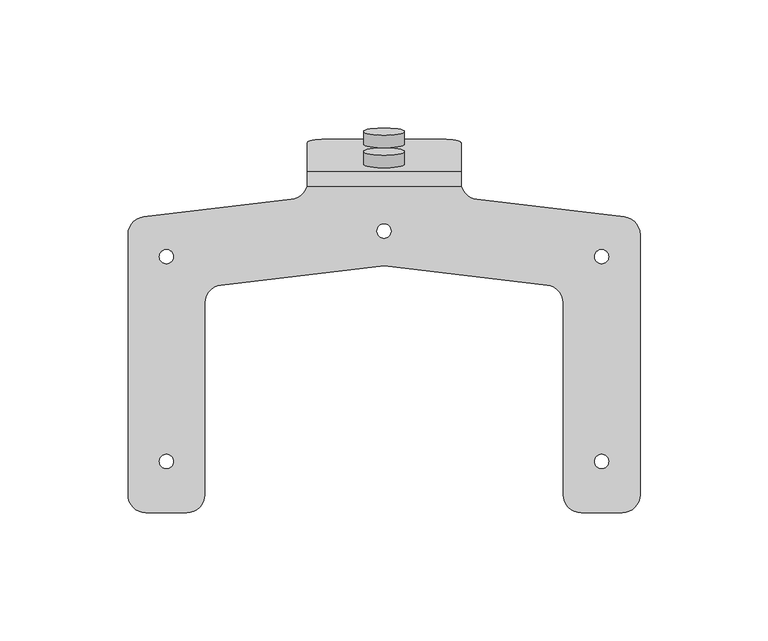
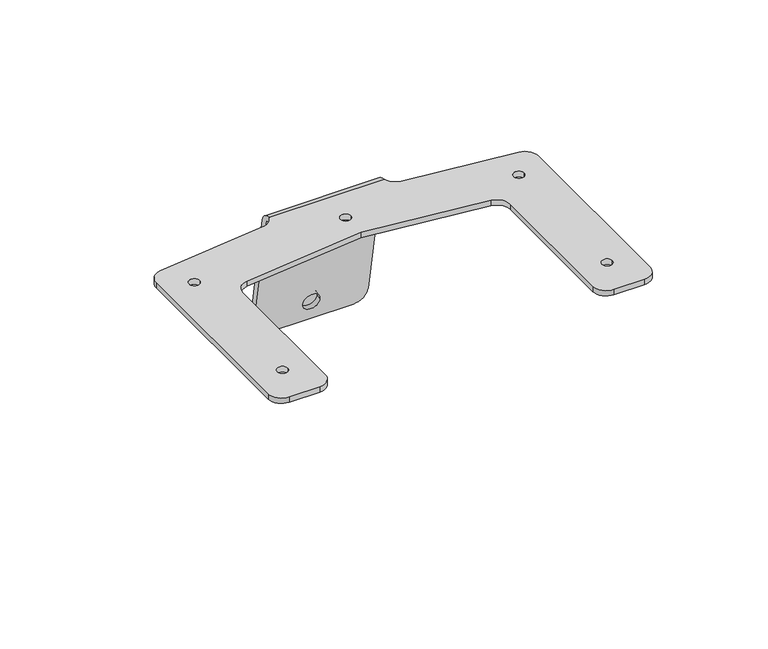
"""IFC4 building model written with IfcOpenShell, lengths in millimetres: proxy geometry, d&b xS-Series 44S L-Mount Adapter : 44S L-Mount Adapter."""

from ifc_helpers import new_model, si_unit, point, frame, frame_2d, origin, origin_with_axes, place, context, project, spatial, polyline, circle_curve, trimmed, segment, composite_curve, outline, extrude, source, transform, mapped, element, save
from ifc_brep_helpers import plane_surface, cylinder_surface, revolved_surface, advanced_brep


def communication_devices_e3182ff1(model_context):
    return source(origin(), model_context, "Body", "SolidModel", [
        extrude(outline(composite_curve([segment(trimmed(circle_curve(frame_2d((0.0, -8.0)), 8.0), [point((0.0, -16.0))], [point((0.0, 0.0))], False, "CARTESIAN"), True, "CONTINUOUS"), segment(trimmed(circle_curve(frame_2d((0.0, -8.0)), 8.0), [point((0.0, 0.0))], [point((0.0, -16.0))], False, "CARTESIAN"), True, "CONTINUOUS")], self_intersect=False)), frame((-8.0, 26.129195, -17.484081), z_axis=(0.0, 0.9848077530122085, 0.1736481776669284), x_axis=(0.0, 0.1736481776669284, -0.9848077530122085)), (0.0, 0.0, 1.0), 5.0),
        extrude(outline(composite_curve([segment(trimmed(circle_curve(frame_2d((45.0, -8.0)), 8.0), [point((45.0, -16.0))], [point((45.0, 0.0))], False, "CARTESIAN"), True, "CONTINUOUS"), segment(trimmed(circle_curve(frame_2d((45.0, -8.0)), 8.0), [point((45.0, 0.0))], [point((45.0, -16.0))], False, "CARTESIAN"), True, "CONTINUOUS")], self_intersect=False)), frame((-8.0, 26.129195, -17.484081), z_axis=(0.0, 0.9848077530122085, 0.1736481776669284), x_axis=(0.0, 0.1736481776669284, -0.9848077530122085)), (0.0, 0.0, 1.0), 5.0),
        advanced_brep(
        [(30.2424739, 20.0, 0.0), (30.2424739, 31.6344279, -65.9821195), (30.2424739, 34.5888512, -65.4611749), (30.2424739, 23.3915476, -1.9581109), (30.2424739, 17.4827011, 3.0), (30.2424739, 17.4827011, 0.0), (-30.0, 20.0, 0.0), (-30.0, 17.4827011, 0.0), (-30.0, 17.4827011, 3.0), (-30.0, 23.3915476, -1.9581109), (-30.0, 34.5888512, -65.4611749), (-30.0, 31.6344279, -65.9821195), (-23.0, 32.8499651, -72.8757737), (23.0, 32.8499651, -72.8757737), (30.0, 31.6344279, -65.9821195), (4.5, 23.1747718, -18.0050255), (-4.5, 23.1747718, -18.0050255), (4.5, 30.9889398, -62.3213744), (-4.5, 30.9889398, -62.3213744), (30.0, 34.5888512, -65.4611749), (23.0, 35.8043884, -72.3548292), (-23.0, 35.8043884, -72.3548292), (-4.5, 26.129195, -17.484081), (4.5, 26.129195, -17.484081), (-4.5, 33.943363, -61.8004299), (4.5, 33.943363, -61.8004299), (-70.0, -103.0, 3.0), (-70.0, -28.0531457, 3.0), (-63.8178887, -21.1010915, 3.0), (0.0, -13.5931046, 3.0), (63.8178887, -21.1010915, 3.0), (70.0, -28.0531457, 3.0), (70.0, -103.0, 3.0), (77.0, -110.0, 3.0), (93.0, -110.0, 3.0), (100.0, -103.0, 3.0), (100.0, -1.3756585, 3.0), (93.8178887, 5.5763958, 3.0), (36.1821113, 12.3570755, 3.0), (-36.1821113, 12.3570755, 3.0), (-93.8178887, 5.5763958, 3.0), (-100.0, -1.3756585, 3.0), (-100.0, -103.0, 3.0), (-93.0, -110.0, 3.0), (-77.0, -110.0, 3.0), (-2.75, 0.0, 3.0), (2.75, 0.0, 3.0), (-87.75, -90.0, 3.0), (-82.25, -90.0, 3.0), (-87.75, -10.0, 3.0), (-82.25, -10.0, 3.0), (87.75, -90.0, 3.0), (82.25, -90.0, 3.0), (87.75, -10.0, 3.0), (82.25, -10.0, 3.0), (-70.0, -103.0, 0.0), (-70.0, -28.0531457, 0.0), (-63.8178887, -21.1010915, 0.0), (0.0, -13.5931046, 0.0), (63.8178887, -21.1010915, 0.0), (70.0, -28.0531457, 0.0), (70.0, -103.0, 0.0), (77.0, -110.0, 0.0), (93.0, -110.0, 0.0), (100.0, -103.0, 0.0), (100.0, -1.3756585, 0.0), (93.8178887, 5.5763958, 0.0), (36.1821113, 12.3570755, 0.0), (-36.1821113, 12.3570755, 0.0), (-93.8178887, 5.5763958, 0.0), (-100.0, -1.3756585, 0.0), (-100.0, -103.0, 0.0), (-93.0, -110.0, 0.0), (-77.0, -110.0, 0.0), (-2.75, 0.0, 0.0), (2.75, 0.0, 0.0), (-87.75, -90.0, 0.0), (-82.25, -90.0, 0.0), (-87.75, -10.0, 0.0), (-82.25, -10.0, 0.0), (87.75, -90.0, 0.0), (82.25, -90.0, 0.0), (87.75, -10.0, 0.0), (82.25, -10.0, 0.0)],
        [
            (0, 1),
            (1, 2),
            (2, 3),
            (3, 4, circle_curve(frame((30.2424739, 17.4827011, -3.0), z_axis=(1.0, 0.0, 0.0), x_axis=(0.0, -1.0, 0.0)), 6.0)),
            (4, 5),
            (5, 0),
            (6, 7),
            (7, 8),
            (8, 9, circle_curve(frame((-30.0, 17.4827011, -3.0), z_axis=(-1.0, 0.0, 0.0), x_axis=(0.0, -1.0, 0.0)), 6.0)),
            (9, 10),
            (10, 11),
            (11, 6),
            (0, 6),
            (11, 12, circle_curve(frame((-23.0, 31.6344279, -65.9821195), z_axis=(0.0, -0.9848077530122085, -0.1736481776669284), x_axis=(0.0, 0.1736481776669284, -0.9848077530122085)), 7.0)),
            (12, 13),
            (13, 14, circle_curve(frame((23.0, 31.6344279, -65.9821195), z_axis=(0.0, -0.9848077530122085, -0.1736481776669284), x_axis=(0.0, 0.1736481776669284, -0.9848077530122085)), 7.0)),
            (14, 1),
            (15, 16, circle_curve(frame((0.0, 23.1747718, -18.0050255), z_axis=(0.0, 0.9848077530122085, 0.17364817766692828), x_axis=(-1.0, 0.0, 0.0)), 4.5)),
            (16, 15, circle_curve(frame((0.0, 23.1747718, -18.0050255), z_axis=(0.0, 0.9848077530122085, 0.17364817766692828), x_axis=(-1.0, 0.0, 0.0)), 4.5)),
            (17, 18, circle_curve(frame((0.0, 30.9889398, -62.3213744), z_axis=(0.0, 0.9848077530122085, 0.17364817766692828), x_axis=(-1.0, 0.0, 0.0)), 4.5)),
            (18, 17, circle_curve(frame((0.0, 30.9889398, -62.3213744), z_axis=(0.0, 0.9848077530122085, 0.17364817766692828), x_axis=(-1.0, 0.0, 0.0)), 4.5)),
            (14, 19),
            (19, 2),
            (19, 20, circle_curve(frame((23.0, 34.5888512, -65.4611749), z_axis=(0.0, 0.9848077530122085, 0.1736481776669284), x_axis=(0.0, 0.1736481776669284, -0.9848077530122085)), 7.0)),
            (20, 21),
            (21, 10, circle_curve(frame((-23.0, 34.5888512, -65.4611749), z_axis=(0.0, 0.9848077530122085, 0.1736481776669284), x_axis=(0.0, 0.1736481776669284, -0.9848077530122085)), 7.0)),
            (9, 3),
            (22, 23, circle_curve(frame((0.0, 26.129195, -17.484081), z_axis=(0.0, -0.9848077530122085, -0.17364817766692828), x_axis=(-1.0, 0.0, 0.0)), 4.5)),
            (23, 22, circle_curve(frame((0.0, 26.129195, -17.484081), z_axis=(0.0, -0.9848077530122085, -0.17364817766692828), x_axis=(-1.0, 0.0, 0.0)), 4.5)),
            (24, 25, circle_curve(frame((0.0, 33.943363, -61.8004299), z_axis=(0.0, -0.9848077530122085, -0.17364817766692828), x_axis=(-1.0, 0.0, 0.0)), 4.5)),
            (25, 24, circle_curve(frame((0.0, 33.943363, -61.8004299), z_axis=(0.0, -0.9848077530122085, -0.17364817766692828), x_axis=(-1.0, 0.0, 0.0)), 4.5)),
            (8, 4),
            (13, 20),
            (12, 21),
            (26, 27),
            (27, 28, circle_curve(frame((-63.0, -28.0531457, 3.0), z_axis=(0.0, 0.0, -1.0), x_axis=(1.0, 0.0, 0.0)), 7.0)),
            (28, 29),
            (29, 30),
            (30, 31, circle_curve(frame((63.0, -28.0531457, 3.0), z_axis=(0.0, 0.0, -1.0), x_axis=(1.0, 0.0, 0.0)), 7.0)),
            (31, 32),
            (32, 33, circle_curve(frame((77.0, -103.0, 3.0), z_axis=(0.0, 0.0, 1.0), x_axis=(1.0, 0.0, 0.0)), 7.0)),
            (33, 34),
            (34, 35, circle_curve(frame((93.0, -103.0, 3.0), z_axis=(0.0, 0.0, 1.0), x_axis=(1.0, 0.0, 0.0)), 7.0)),
            (35, 36),
            (36, 37, circle_curve(frame((93.0, -1.3756585, 3.0), z_axis=(0.0, 0.0, 1.0), x_axis=(1.0, 0.0, 0.0)), 7.0)),
            (37, 38),
            (38, 4, circle_curve(frame((37.0, 19.3091297, 3.0), z_axis=(0.0, 0.0, -1.0), x_axis=(1.0, 0.0, 0.0)), 7.0)),
            (8, 39, circle_curve(frame((-37.0446139, 19.6883475, 3.0), z_axis=(0.0, 0.0, -1.0), x_axis=(1.0, 0.0, 0.0)), 7.3818331)),
            (39, 40),
            (40, 41, circle_curve(frame((-93.0, -1.3756585, 3.0), z_axis=(0.0, 0.0, 1.0), x_axis=(1.0, 0.0, 0.0)), 7.0)),
            (41, 42),
            (42, 43, circle_curve(frame((-93.0, -103.0, 3.0), z_axis=(0.0, 0.0, 1.0), x_axis=(1.0, 0.0, 0.0)), 7.0)),
            (43, 44),
            (44, 26, circle_curve(frame((-77.0, -103.0, 3.0), z_axis=(0.0, 0.0, 1.0), x_axis=(1.0, 0.0, 0.0)), 7.0)),
            (45, 46, circle_curve(frame((0.0, 0.0, 3.0), z_axis=(0.0, 0.0, -1.0), x_axis=(1.0, 0.0, 0.0)), 2.75)),
            (46, 45, circle_curve(frame((0.0, 0.0, 3.0), z_axis=(0.0, 0.0, -1.0), x_axis=(1.0, 0.0, 0.0)), 2.75)),
            (47, 48, circle_curve(frame((-85.0, -90.0, 3.0), z_axis=(0.0, 0.0, -1.0), x_axis=(1.0, 0.0, 0.0)), 2.75)),
            (48, 47, circle_curve(frame((-85.0, -90.0, 3.0), z_axis=(0.0, 0.0, -1.0), x_axis=(1.0, 0.0, 0.0)), 2.75)),
            (49, 50, circle_curve(frame((-85.0, -10.0, 3.0), z_axis=(0.0, 0.0, -1.0), x_axis=(1.0, 0.0, 0.0)), 2.75)),
            (50, 49, circle_curve(frame((-85.0, -10.0, 3.0), z_axis=(0.0, 0.0, -1.0), x_axis=(1.0, 0.0, 0.0)), 2.75)),
            (51, 52, circle_curve(frame((85.0, -90.0, 3.0), z_axis=(0.0, 0.0, -1.0), x_axis=(-1.0, 0.0, 0.0)), 2.75)),
            (52, 51, circle_curve(frame((85.0, -90.0, 3.0), z_axis=(0.0, 0.0, -1.0), x_axis=(-1.0, 0.0, 0.0)), 2.75)),
            (53, 54, circle_curve(frame((85.0, -10.0, 3.0), z_axis=(0.0, 0.0, -1.0), x_axis=(-1.0, 0.0, 0.0)), 2.75)),
            (54, 53, circle_curve(frame((85.0, -10.0, 3.0), z_axis=(0.0, 0.0, -1.0), x_axis=(-1.0, 0.0, 0.0)), 2.75)),
            (26, 55),
            (55, 56),
            (56, 27),
            (56, 57, circle_curve(frame((-63.0, -28.0531457, 0.0), z_axis=(0.0, 0.0, -1.0), x_axis=(1.0, 0.0, 0.0)), 7.0)),
            (57, 28),
            (57, 58),
            (58, 29),
            (58, 59),
            (59, 30),
            (59, 60, circle_curve(frame((63.0, -28.0531457, 0.0), z_axis=(0.0, 0.0, -1.0), x_axis=(1.0, 0.0, 0.0)), 7.0)),
            (60, 31),
            (60, 61),
            (61, 32),
            (61, 62, circle_curve(frame((77.0, -103.0, 0.0), z_axis=(0.0, 0.0, 1.0), x_axis=(1.0, 0.0, 0.0)), 7.0)),
            (62, 33),
            (62, 63),
            (63, 34),
            (63, 64, circle_curve(frame((93.0, -103.0, 0.0), z_axis=(0.0, 0.0, 1.0), x_axis=(1.0, 0.0, 0.0)), 7.0)),
            (64, 35),
            (64, 65),
            (65, 36),
            (65, 66, circle_curve(frame((93.0, -1.3756585, 0.0), z_axis=(0.0, 0.0, 1.0), x_axis=(1.0, 0.0, 0.0)), 7.0)),
            (66, 37),
            (66, 67),
            (67, 38),
            (67, 5, circle_curve(frame((37.0, 19.3091297, 0.0), z_axis=(0.0, 0.0, -1.0), x_axis=(1.0, 0.0, 0.0)), 7.0)),
            (7, 68, circle_curve(frame((-37.0446139, 19.6883475, 0.0), z_axis=(0.0, 0.0, -1.0), x_axis=(1.0, 0.0, 0.0)), 7.3818331)),
            (68, 39),
            (68, 69),
            (69, 40),
            (69, 70, circle_curve(frame((-93.0, -1.3756585, 0.0), z_axis=(0.0, 0.0, 1.0), x_axis=(1.0, 0.0, 0.0)), 7.0)),
            (70, 41),
            (70, 71),
            (71, 42),
            (71, 72, circle_curve(frame((-93.0, -103.0, 0.0), z_axis=(0.0, 0.0, 1.0), x_axis=(1.0, 0.0, 0.0)), 7.0)),
            (72, 43),
            (72, 73),
            (73, 44),
            (73, 55, circle_curve(frame((-77.0, -103.0, 0.0), z_axis=(0.0, 0.0, 1.0), x_axis=(1.0, 0.0, 0.0)), 7.0)),
            (74, 75, circle_curve(origin_with_axes(), 2.75)),
            (75, 74, circle_curve(origin_with_axes(), 2.75)),
            (76, 77, circle_curve(frame((-85.0, -90.0, 0.0), z_axis=(0.0, 0.0, 1.0), x_axis=(1.0, 0.0, 0.0)), 2.75)),
            (77, 76, circle_curve(frame((-85.0, -90.0, 0.0), z_axis=(0.0, 0.0, 1.0), x_axis=(1.0, 0.0, 0.0)), 2.75)),
            (78, 79, circle_curve(frame((-85.0, -10.0, 0.0), z_axis=(0.0, 0.0, 1.0), x_axis=(1.0, 0.0, 0.0)), 2.75)),
            (79, 78, circle_curve(frame((-85.0, -10.0, 0.0), z_axis=(0.0, 0.0, 1.0), x_axis=(1.0, 0.0, 0.0)), 2.75)),
            (80, 81, circle_curve(frame((85.0, -90.0, 0.0), z_axis=(0.0, 0.0, 1.0), x_axis=(-1.0, 0.0, 0.0)), 2.75)),
            (81, 80, circle_curve(frame((85.0, -90.0, 0.0), z_axis=(0.0, 0.0, 1.0), x_axis=(-1.0, 0.0, 0.0)), 2.75)),
            (82, 83, circle_curve(frame((85.0, -10.0, 0.0), z_axis=(0.0, 0.0, 1.0), x_axis=(-1.0, 0.0, 0.0)), 2.75)),
            (83, 82, circle_curve(frame((85.0, -10.0, 0.0), z_axis=(0.0, 0.0, 1.0), x_axis=(-1.0, 0.0, 0.0)), 2.75)),
            (45, 74),
            (75, 46),
            (47, 76),
            (77, 48),
            (49, 78),
            (79, 50),
            (51, 80),
            (81, 52),
            (53, 82),
            (83, 54),
            (22, 16),
            (15, 23),
            (24, 18),
            (17, 25),
        ],
        [
            plane_surface(frame((30.2424739, 31.6344279, -65.9821195), z_axis=(1.0, 0.0, 0.0), x_axis=(0.0, 0.17364817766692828, -0.9848077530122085))),
            plane_surface(frame((-30.0, 31.6344279, -65.9821195), z_axis=(-1.0, 0.0, 0.0), x_axis=(0.0, -0.17364817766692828, 0.9848077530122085))),
            plane_surface(frame((30.2424739, 20.0, 0.0), z_axis=(0.0, -0.9848077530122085, -0.17364817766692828), x_axis=(-1.0, 0.0, 0.0))),
            plane_surface(frame((30.2424739, 31.6344279, -65.9821195), z_axis=(0.0, 0.1736481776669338, -0.9848077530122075), x_axis=(-1.0, 0.0, 0.0))),
            plane_surface(frame((30.2424739, 34.5888512, -65.4611749), z_axis=(0.0, 0.9848077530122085, 0.1736481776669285), x_axis=(-1.0, 0.0, 0.0))),
            cylinder_surface(frame((-30.0, 17.4827011, -3.0), z_axis=(1.0, 0.0, 0.0), x_axis=(0.0, -1.0, 0.0)), 6.0),
            cylinder_surface(frame((23.0, 31.6344279, -65.9821195), z_axis=(0.0, 0.9848077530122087, 0.17364817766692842), x_axis=(0.0, 0.1736481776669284, -0.9848077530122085)), 7.0),
            plane_surface(frame((23.0, 35.8043884, -72.3548292), z_axis=(0.0, 0.17364817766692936, -0.9848077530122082), x_axis=(0.0, -0.9848077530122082, -0.17364817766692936))),
            cylinder_surface(frame((-23.0, 31.6344279, -65.9821195), z_axis=(0.0, 0.9848077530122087, 0.17364817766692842), x_axis=(0.0, 0.1736481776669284, -0.9848077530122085)), 7.0),
            plane_surface(frame((-70.0, -28.0531457, 3.0), z_axis=(0.0, 0.0, 1.0), x_axis=(0.0, 1.0, 0.0))),
            plane_surface(frame((-70.0, -103.0, 3.0), z_axis=(1.0, 0.0, 0.0), x_axis=(0.0, 0.0, -1.0))),
            revolved_surface(polyline([(-56.0, -28.0531457, 0.0), (-56.0, -28.0531457, 3.0)]), (-63.0, -28.0531457, 0.0), (0.0, 0.0, -1.0)),
            plane_surface(frame((-63.8178887, -21.1010915, 3.0), z_axis=(0.11684124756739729, -0.9931506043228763, 0.0), x_axis=(0.0, 0.0, -1.0))),
            plane_surface(frame((0.0, -13.5931046, 3.0), z_axis=(-0.11684124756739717, -0.9931506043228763, 0.0), x_axis=(0.0, 0.0, -1.0))),
            revolved_surface(polyline([(70.0, -28.0531457, 0.0), (70.0, -28.0531457, 3.0)]), (63.0, -28.0531457, 0.0), (0.0, 0.0, -1.0)),
            plane_surface(frame((70.0, -28.0531457, 3.0), z_axis=(-1.0, 0.0, 0.0), x_axis=(0.0, 0.0, -1.0))),
            cylinder_surface(frame((77.0, -103.0, 0.0), z_axis=(0.0, 0.0, 1.0), x_axis=(1.0, 0.0, 0.0)), 7.0),
            plane_surface(frame((77.0, -110.0, 3.0), z_axis=(0.0, -1.0, 0.0), x_axis=(0.0, 0.0, -1.0))),
            cylinder_surface(frame((93.0, -103.0, 0.0), z_axis=(0.0, 0.0, 1.0), x_axis=(1.0, 0.0, 0.0)), 7.0),
            plane_surface(frame((100.0, -103.0, 3.0), z_axis=(1.0, 0.0, 0.0), x_axis=(0.0, 0.0, -1.0))),
            cylinder_surface(frame((93.0, -1.3756585, 0.0), z_axis=(0.0, 0.0, 1.0), x_axis=(1.0, 0.0, 0.0)), 7.0),
            plane_surface(frame((93.8178887, 5.5763958, 3.0), z_axis=(0.11684124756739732, 0.9931506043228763, 0.0), x_axis=(0.0, 0.0, -1.0))),
            revolved_surface(polyline([(44.0, 19.3091297, 0.0), (44.0, 19.3091297, 3.0)]), (37.0, 19.3091297, 0.0), (0.0, 0.0, -1.0)),
            revolved_surface(polyline([(-29.6627808, 19.6883475, 0.0), (-29.6627808, 19.6883475, 3.0)]), (-37.0446139, 19.6883475, 0.0), (0.0, 0.0, -1.0)),
            plane_surface(frame((-36.1821113, 12.3570755, 3.0), z_axis=(-0.11684124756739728, 0.9931506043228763, 0.0), x_axis=(0.0, 0.0, -1.0))),
            cylinder_surface(frame((-93.0, -1.3756585, 0.0), z_axis=(0.0, 0.0, 1.0), x_axis=(1.0, 0.0, 0.0)), 7.0),
            plane_surface(frame((-100.0, -1.3756585, 3.0), z_axis=(-1.0, 0.0, 0.0), x_axis=(0.0, 0.0, -1.0))),
            cylinder_surface(frame((-93.0, -103.0, 0.0), z_axis=(0.0, 0.0, 1.0), x_axis=(1.0, 0.0, 0.0)), 7.0),
            plane_surface(frame((-93.0, -110.0, 3.0), z_axis=(0.0, -1.0, 0.0), x_axis=(0.0, 0.0, -1.0))),
            cylinder_surface(frame((-77.0, -103.0, 0.0), z_axis=(0.0, 0.0, 1.0), x_axis=(1.0, 0.0, 0.0)), 7.0),
            plane_surface(frame((30.2424739, 17.4827011, 0.0), z_axis=(0.0, 0.0, -1.0), x_axis=(-1.0, 0.0, 0.0))),
            revolved_surface(polyline([(2.75, 0.0, 0.0), (2.75, 0.0, 3.0)]), (0.0, 0.0, 50.0), (0.0, 0.0, -1.0)),
            revolved_surface(polyline([(-82.25, -90.0, 0.0), (-82.25, -90.0, 3.0)]), (-85.0, -90.0, 50.0), (0.0, 0.0, -1.0)),
            revolved_surface(polyline([(-82.25, -10.0, 0.0), (-82.25, -10.0, 3.0)]), (-85.0, -10.0, 50.0), (0.0, 0.0, -1.0)),
            revolved_surface(polyline([(82.25, -90.0, 0.0), (82.25, -90.0, 3.0)]), (85.0, -90.0, 50.0), (0.0, 0.0, -1.0)),
            revolved_surface(polyline([(82.25, -10.0, 0.0), (82.25, -10.0, 3.0)]), (85.0, -10.0, 50.0), (0.0, 0.0, -1.0)),
            revolved_surface(polyline([(-4.5, 26.129194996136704, -17.484080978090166), (-4.5, 23.1747718, -18.0050255)]), (0.0, 23.1747718, -18.0050255), (0.0, 0.9848077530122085, 0.17364817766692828)),
            revolved_surface(polyline([(-4.5, 33.943363, -61.8004299), (-4.5, 30.988939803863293, -62.32137442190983)]), (0.0, 33.943363, -61.8004299), (0.0, 0.9848077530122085, 0.17364817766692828)),
        ],
        [
            (0, [[1, 2, 3, 4, 5, 6]]),
            (1, [[7, 8, 9, 10, 11, 12]]),
            (2, [[-1, 13, -12, 14, 15, 16, 17], [18, 19], [20, 21]]),
            (3, [[-2, -17, 22, 23]]),
            (4, [[-3, -23, 24, 25, 26, -10, 27], [28, 29], [30, 31]]),
            (5, [[-4, -27, -9, 32]]),
            (6, [[-16, 33, -24, -22]]),
            (7, [[-15, 34, -25, -33]]),
            (8, [[-14, -11, -26, -34]]),
            (9, [[35, 36, 37, 38, 39, 40, 41, 42, 43, 44, 45, 46, 47, -32, 48, 49, 50, 51, 52, 53, 54], [55, 56], [57, 58], [59, 60], [61, 62], [63, 64]]),
            (10, [[-35, 65, 66, 67]]),
            (11, [[-36, -67, 68, 69]]),
            (12, [[-37, -69, 70, 71]]),
            (13, [[-38, -71, 72, 73]]),
            (14, [[-39, -73, 74, 75]]),
            (15, [[-40, -75, 76, 77]]),
            (16, [[-41, -77, 78, 79]]),
            (17, [[-42, -79, 80, 81]]),
            (18, [[-43, -81, 82, 83]]),
            (19, [[-44, -83, 84, 85]]),
            (20, [[-45, -85, 86, 87]]),
            (21, [[-46, -87, 88, 89]]),
            (22, [[-47, -89, 90, -5]]),
            (23, [[-48, -8, 91, 92]]),
            (24, [[-49, -92, 93, 94]]),
            (25, [[-50, -94, 95, 96]]),
            (26, [[-51, -96, 97, 98]]),
            (27, [[-52, -98, 99, 100]]),
            (28, [[-53, -100, 101, 102]]),
            (29, [[-54, -102, 103, -65]]),
            (30, [[-6, -90, -88, -86, -84, -82, -80, -78, -76, -74, -72, -70, -68, -66, -103, -101, -99, -97, -95, -93, -91, -7, -13], [104, 105], [106, 107], [108, 109], [110, 111], [112, 113]]),
            (31, [[-55, 114, -105, 115]]),
            (31, [[-56, -115, -104, -114]]),
            (32, [[-57, 116, -107, 117]]),
            (32, [[-58, -117, -106, -116]]),
            (33, [[-59, 118, -109, 119]]),
            (33, [[-60, -119, -108, -118]]),
            (34, [[-61, 120, -111, 121]]),
            (34, [[-62, -121, -110, -120]]),
            (35, [[-63, 122, -113, 123]]),
            (35, [[-64, -123, -112, -122]]),
            (36, [[124, -18, 125, -28]]),
            (36, [[-124, -29, -125, -19]]),
            (37, [[126, -20, 127, -30]]),
            (37, [[-126, -31, -127, -21]]),
        ],
    ),
    ])


if __name__ == "__main__":
    model = new_model("IFC4")
    model_context = context("Model", 3, world=origin())
    ifc_project = project(units=[si_unit("LENGTHUNIT", "METRE", prefix="MILLI")], contexts=[model_context])
    site = spatial("IfcSite", under=ifc_project)
    building = spatial("IfcBuilding", under=site)
    placement = place(None, origin())
    communication_devices_shape = communication_devices_e3182ff1(model_context)
    element("IfcBuildingElementProxy", 1, Name="d&b xS-Series 44S L-Mount Adapter : 44S L-Mount Adapter", ObjectType="d&b xS-Series 44S L-Mount Adapter : 44S L-Mount Adapter", at=placement, inside=building, context=model_context, shape_type="MappedRepresentation", body=[
        mapped(communication_devices_shape, transform((0.0, 0.0, 0.0), x_axis=(1.0, 0.0, 0.0), y_axis=(0.0, 1.0, 0.0), z_axis=(0.0, 0.0, 1.0))),
    ])
    save(model, "model.ifc")
